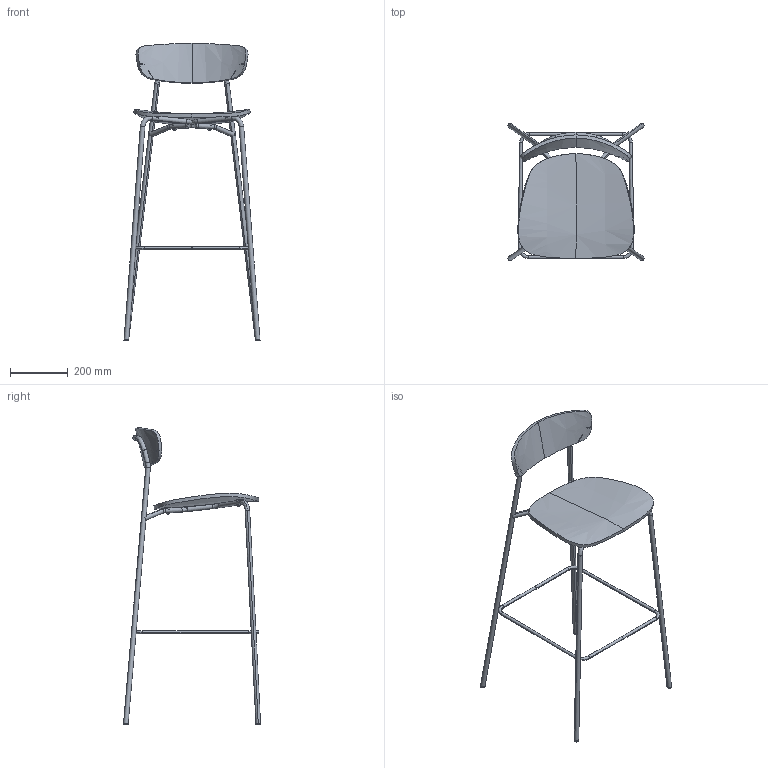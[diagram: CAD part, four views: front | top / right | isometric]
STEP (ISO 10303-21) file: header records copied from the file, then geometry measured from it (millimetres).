
FILE_DESCRIPTION(/* description */ (''),/* implementation_level */ '2;1');
FILE_NAME(/* name */ 'Trivi 128W,H780',/* time_stamp */ '2022-01-20T11:24:25+01:00',/* author */ (''),/* organization */ (''),/* preprocessor_version */ 'ST-DEVELOPER v16.5',/* originating_system */ 'Rhino 7.14',/* authorisation */ '');
FILE_SCHEMA (('CONFIG_CONTROL_DESIGN'));
Length unit declared in the file: millimetre
Products named in the file (1): Document
Bounding box: 472.09 x 476.03 x 1030.57 mm (x, y, z)
Volume: 1953948.3 mm3; surface area: 665716.2 mm2
Topology: 12 solids, 22 shells, 190 faces, 409 edges, 250 vertices
Faces by surface type: bspline 64, cylinder 64, plane 62
Entity records: 8176 total; most frequent: CARTESIAN_POINT 5464, ORIENTED_EDGE 776, EDGE_CURVE 406, VERTEX_POINT 244, EDGE_LOOP 192, ADVANCED_FACE 190, FACE_OUTER_BOUND 190, B_SPLINE_CURVE_WITH_KNOTS 181
